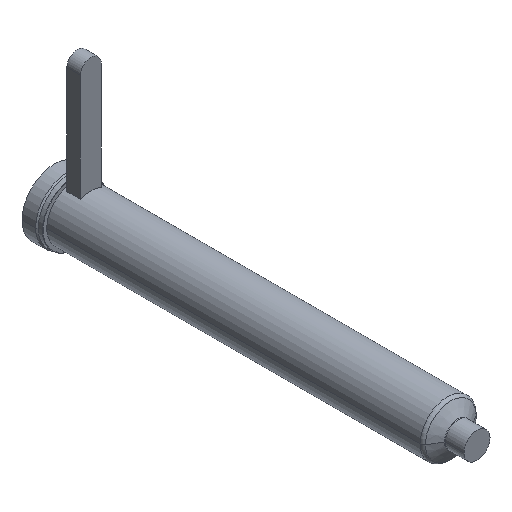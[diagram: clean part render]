
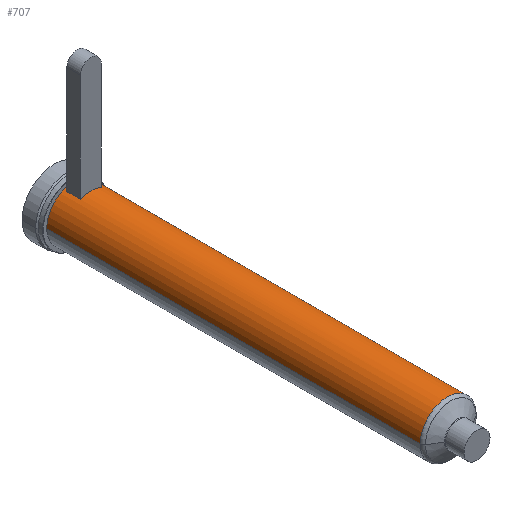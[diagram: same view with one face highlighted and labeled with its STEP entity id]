
A CAD part, isometric view. The second image highlights one B-rep face of the part: STEP entity #707.
In plain terms, the highlighted cylindrical face has radius 21 mm (diameter 42 mm), a partial arc.
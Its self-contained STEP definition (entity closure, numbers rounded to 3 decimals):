
#199=DIRECTION('',(0.,-1.,0.));
#200=VECTOR('',#199,287.228);
#201=CARTESIAN_POINT('',(21.,0.,0.));
#202=LINE('',#201,#200);
#203=CARTESIAN_POINT('',(0.,-287.228,0.));
#204=DIRECTION('',(0.,1.,0.));
#205=DIRECTION('',(-1.,0.,0.));
#206=AXIS2_PLACEMENT_3D('',#203,#204,#205);
#208=DIRECTION('',(0.,1.,0.));
#209=VECTOR('',#208,287.228);
#210=CARTESIAN_POINT('',(-21.,-287.228,0.));
#211=LINE('',#210,#209);
#212=CARTESIAN_POINT('',(0.,0.,0.));
#213=DIRECTION('',(0.,1.,0.));
#214=DIRECTION('',(-1.,0.,0.));
#215=AXIS2_PLACEMENT_3D('',#212,#213,#214);
#293=DIRECTION('',(0.,-1.,0.));
#294=VECTOR('',#293,10.5);
#295=CARTESIAN_POINT('',(-8.,-2.5,19.416));
#296=LINE('',#295,#294);
#297=CARTESIAN_POINT('',(0.,-13.,0.));
#298=DIRECTION('',(0.,1.,0.));
#299=DIRECTION('',(-0.381,0.,0.925));
#300=AXIS2_PLACEMENT_3D('',#297,#298,#299);
#323=CARTESIAN_POINT('',(0.,-2.5,0.));
#324=DIRECTION('',(0.,-1.,0.));
#325=DIRECTION('',(0.381,0.,0.925));
#326=AXIS2_PLACEMENT_3D('',#323,#324,#325);
#341=DIRECTION('',(0.,-1.,0.));
#342=VECTOR('',#341,10.5);
#343=CARTESIAN_POINT('',(8.,-2.5,19.416));
#344=LINE('',#343,#342);
#402=CARTESIAN_POINT('',(-21.,0.,0.));
#403=CARTESIAN_POINT('',(21.,0.,0.));
#404=VERTEX_POINT('',#402);
#405=VERTEX_POINT('',#403);
#414=CARTESIAN_POINT('',(-8.,-2.5,19.416));
#415=VERTEX_POINT('',#414);
#416=CARTESIAN_POINT('',(8.,-2.5,19.416));
#417=VERTEX_POINT('',#416);
#454=CARTESIAN_POINT('',(21.,-287.228,0.));
#455=VERTEX_POINT('',#454);
#464=CARTESIAN_POINT('',(-21.,-287.228,0.));
#465=VERTEX_POINT('',#464);
#466=CARTESIAN_POINT('',(-8.,-13.,19.416));
#467=CARTESIAN_POINT('',(8.,-13.,19.416));
#468=VERTEX_POINT('',#466);
#469=VERTEX_POINT('',#467);
#685=CARTESIAN_POINT('',(0.,16.4,0.));
#686=DIRECTION('',(0.,-1.,0.));
#687=DIRECTION('',(-1.,0.,0.));
#688=AXIS2_PLACEMENT_3D('',#685,#686,#687);
#689=CYLINDRICAL_SURFACE('',#688,21.);
#690=ORIENTED_EDGE('',*,*,#679,.T.);
#692=ORIENTED_EDGE('',*,*,#691,.F.);
#693=ORIENTED_EDGE('',*,*,#675,.T.);
#694=ORIENTED_EDGE('',*,*,#665,.T.);
#695=EDGE_LOOP('',(#690,#692,#693,#694));
#696=FACE_OUTER_BOUND('',#695,.F.);
#698=ORIENTED_EDGE('',*,*,#697,.T.);
#700=ORIENTED_EDGE('',*,*,#699,.T.);
#702=ORIENTED_EDGE('',*,*,#701,.F.);
#704=ORIENTED_EDGE('',*,*,#703,.T.);
#705=EDGE_LOOP('',(#698,#700,#702,#704));
#706=FACE_BOUND('',#705,.F.);
#707=ADVANCED_FACE('',(#696,#706),#689,.T.);
#207=CIRCLE('',#206,21.);
#216=CIRCLE('',#215,21.);
#301=CIRCLE('',#300,21.);
#327=CIRCLE('',#326,21.);
#665=EDGE_CURVE('',#404,#405,#216,.T.);
#675=EDGE_CURVE('',#465,#404,#211,.T.);
#679=EDGE_CURVE('',#405,#455,#202,.T.);
#691=EDGE_CURVE('',#465,#455,#207,.T.);
#697=EDGE_CURVE('',#415,#468,#296,.T.);
#699=EDGE_CURVE('',#468,#469,#301,.T.);
#701=EDGE_CURVE('',#417,#469,#344,.T.);
#703=EDGE_CURVE('',#417,#415,#327,.T.);
